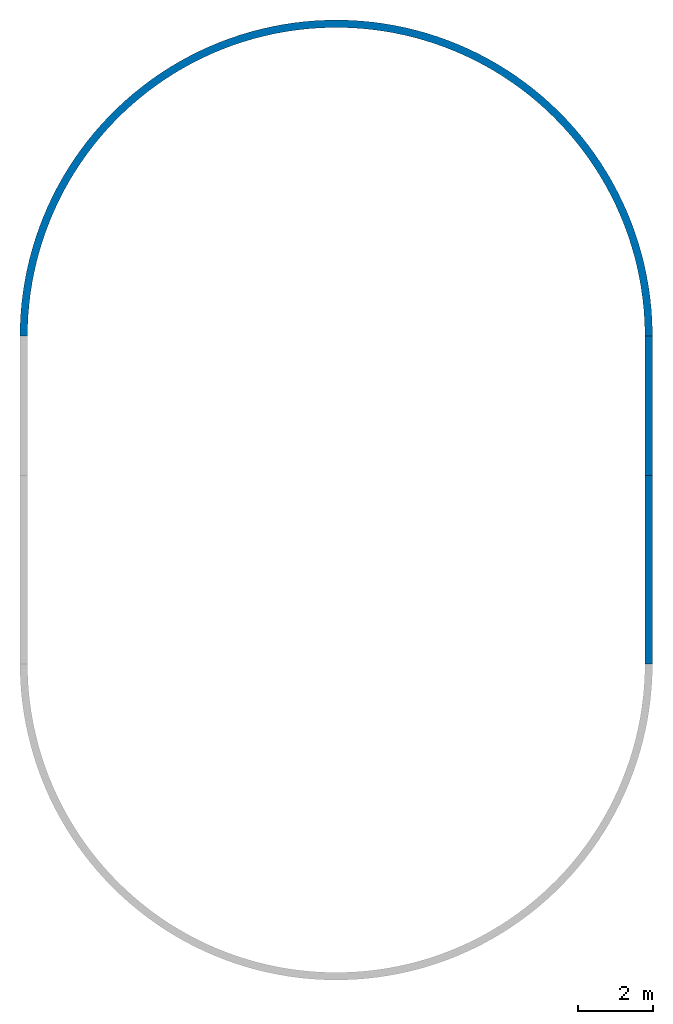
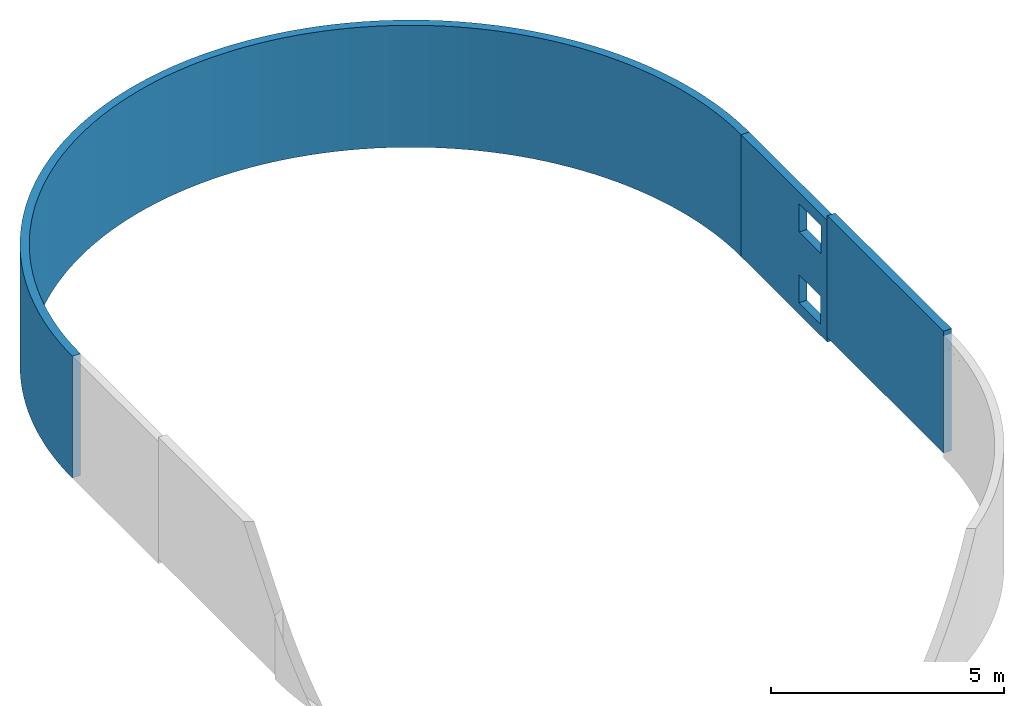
# One storey, part 2 of 2: 3 walls, 2 openings.
"""IFC4 building model written with IfcOpenShell, lengths in millimetres."""

from ifc_helpers import new_model, entity, si_unit, converted_unit, derived_unit, direction, frame, origin_with_axes, place, context, subcontext, project, spatial, polygons, material, constituent, constituent_set, type_object, element, save


model = new_model("IFC4")

# Units and contexts
model_context = context("Model", 3, precision=0.01, world=origin_with_axes(), true_north=direction((0.0, 1.0)))
body_context = subcontext(model_context, "Body", "Model", "MODEL_VIEW")
ifc_project = project(units=[si_unit("LENGTHUNIT", "METRE", prefix="MILLI"), si_unit("AREAUNIT", "SQUARE_METRE"), si_unit("VOLUMEUNIT", "CUBIC_METRE"), converted_unit("PLANEANGLEUNIT", "DEGREE", entity("IfcPlaneAngleMeasure", 0.0174532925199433), si_unit("PLANEANGLEUNIT", "RADIAN"), dimensions=[0, 0, 0, 0, 0, 0, 0]), converted_unit("TIMEUNIT", "Year", entity("IfcTimeMeasure", 31557600.0), si_unit("TIMEUNIT", "SECOND"), dimensions=[0, 0, 1, 0, 0, 0, 0]), si_unit("MASSUNIT", "GRAM", prefix="KILO"), si_unit("THERMODYNAMICTEMPERATUREUNIT", "DEGREE_CELSIUS"), si_unit("LUMINOUSINTENSITYUNIT", "LUMEN"), si_unit("ENERGYUNIT", "JOULE", prefix="MEGA"), derived_unit("THERMALCONDUCTANCEUNIT", [(si_unit("POWERUNIT", "WATT"), 1), (si_unit("LENGTHUNIT", "METRE"), -1), (si_unit("THERMODYNAMICTEMPERATUREUNIT", "KELVIN"), -1)]), derived_unit("SPECIFICHEATCAPACITYUNIT", [(si_unit("ENERGYUNIT", "JOULE"), 1), (si_unit("MASSUNIT", "GRAM", prefix="KILO"), -1), (si_unit("THERMODYNAMICTEMPERATUREUNIT", "KELVIN"), -1)]), derived_unit("MASSDENSITYUNIT", [(si_unit("MASSUNIT", "GRAM", prefix="KILO"), 1), (si_unit("VOLUMEUNIT", "CUBIC_METRE"), -1)])], contexts=[model_context])

# Site, building, storey
site_placement = place(None, origin_with_axes())
site = spatial("IfcSite", under=ifc_project, at=site_placement, Name="Exteriér", CompositionType="ELEMENT")
building_placement = place(site_placement, origin_with_axes())
building = spatial("IfcBuilding", under=site, at=building_placement, Name="Univerzitní lezecké centrum", CompositionType="ELEMENT")
storey_placement = place(building_placement, frame((0.0, 0.0, 3200.0), z_axis=(0.0, 0.0, 1.0), x_axis=(1.0, 0.0, 0.0)))
storey = spatial("IfcBuildingStorey", under=building, at=storey_placement, Name="2.NP", CompositionType="ELEMENT", Elevation=3200.0)

# Wall, openings
ifc_material = material(Name="Tepelná izolace - minerální vata - obvodová izolace")
ifc_constituent_1 = constituent(ifc_material, Name="Tepelná izolace - minerální vata - obvodová izolace")
ifc_constituent_set_1 = constituent_set(constituents=[ifc_constituent_1], Name="Obvodová tepelná izolace")
wall_type = type_object("IfcWallType", Name="Obvodová tepelná izolace 200", PredefinedType="NOTDEFINED")
wall_1_placement = place(storey_placement, frame((10649.85164885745, 8399.999999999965, -120.000000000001), z_axis=(0.0, 0.0, 1.0), x_axis=(0.0, -1.0, 0.0)))
wall_1 = element("IfcWall", 1, at=wall_1_placement, inside=storey, type_object=wall_type, material=ifc_constituent_set_1, Name="St01", PredefinedType="NOTDEFINED", context=body_context, shape_type="Tessellation", body=[
    polygons([(0.0, 0.0, 0.0), (3700.000000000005, 0.0, 0.0), (3700.000000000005, 0.0, 3200.0), (0.0, 0.0, 3200.0), (3417.665309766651, 0.0, 292.6445664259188), (2477.665309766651, 0.0, 292.6445664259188), (2477.665309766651, 0.0, 1032.644566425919), (3417.665309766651, 0.0, 1032.644566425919), (3433.613625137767, 0.0, 2158.246547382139), (2493.613625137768, 0.0, 2158.246547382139), (2493.613625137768, 0.0, 2898.246547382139), (3433.613625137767, 0.0, 2898.246547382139), (0.0, 199.9999999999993, 0.0), (3700.000000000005, 199.9999999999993, 0.0), (3700.000000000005, 199.9999999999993, 3200.0), (0.0, 200.0000000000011, 3200.0), (3417.665309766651, 199.9999999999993, 292.6445664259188), (2477.665309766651, 199.9999999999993, 292.6445664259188), (2477.665309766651, 199.9999999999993, 1032.644566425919), (3417.665309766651, 199.9999999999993, 1032.644566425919), (3433.613625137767, 199.9999999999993, 2158.246547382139), (2493.613625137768, 199.9999999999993, 2158.246547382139), (2493.613625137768, 199.9999999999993, 2898.246547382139), (3433.613625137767, 199.9999999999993, 2898.246547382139)], [[[1, 2, 3, 4], [5, 6, 7, 8], [9, 10, 11, 12]], [[13, 14, 2, 1]], [[15, 3, 2, 14]], [[4, 3, 15, 16]], [[1, 4, 16, 13]], [[17, 18, 6, 5]], [[18, 19, 7, 6]], [[19, 20, 8, 7]], [[20, 17, 5, 8]], [[21, 22, 10, 9]], [[22, 23, 11, 10]], [[23, 24, 12, 11]], [[24, 21, 9, 12]], [[16, 15, 14, 13], [17, 20, 19, 18], [21, 24, 23, 22]]], closed=True),
])
opening_1_placement = place(wall_1_placement, frame((8399.999999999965, -10649.85164885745, -3080.0), z_axis=(0.0, 0.0, 1.0), x_axis=(0.0, 1.0, 0.0)))
element("IfcOpeningElement", 2, at=opening_1_placement, cuts=wall_1, Name="Pr01", PredefinedType="NOTDEFINED", context=body_context, identifier="Reference", shape_type="Tessellation", body=[
    polygons([(10449.85164885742, 5922.334690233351, 3372.644566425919), (10449.85164885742, 5922.334690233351, 4112.644566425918), (11049.85164885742, 5922.334690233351, 4112.644566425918), (11049.85164885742, 5922.334690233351, 3372.644566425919), (10449.85164885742, 4982.334690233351, 3372.644566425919), (10449.85164885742, 4982.334690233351, 4112.644566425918), (11049.85164885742, 4982.334690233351, 4112.644566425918), (11049.85164885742, 4982.334690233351, 3372.644566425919)], [[[1, 2, 3, 4]], [[1, 5, 6, 2]], [[2, 6, 7, 3]], [[4, 3, 7, 8]], [[5, 1, 4, 8]], [[6, 5, 8, 7]]], closed=True),
])
opening_2_placement = place(wall_1_placement, frame((8399.999999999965, -10649.85164885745, -3080.0), z_axis=(0.0, 0.0, 1.0), x_axis=(0.0, 1.0, 0.0)))
element("IfcOpeningElement", 3, at=opening_2_placement, cuts=wall_1, Name="Pr01", PredefinedType="NOTDEFINED", context=body_context, identifier="Reference", shape_type="Tessellation", body=[
    polygons([(10449.85164885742, 5906.386374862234, 5238.246547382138), (10449.85164885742, 5906.386374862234, 5978.246547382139), (11049.85164885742, 5906.386374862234, 5978.246547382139), (11049.85164885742, 5906.386374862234, 5238.246547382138), (10449.85164885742, 4966.386374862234, 5238.246547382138), (10449.85164885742, 4966.386374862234, 5978.246547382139), (11049.85164885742, 4966.386374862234, 5978.246547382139), (11049.85164885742, 4966.386374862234, 5238.246547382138)], [[[1, 2, 3, 4]], [[1, 5, 6, 2]], [[2, 6, 7, 3]], [[4, 3, 7, 8]], [[5, 1, 4, 8]], [[6, 5, 8, 7]]], closed=True),
])

# Walls
ifc_constituent_2 = constituent(ifc_material, Name="Tepelná izolace - minerální vata - obvodová izolace")
ifc_constituent_set_2 = constituent_set(constituents=[ifc_constituent_2], Name="Obvodová tepelná izolace")
wall_2_placement = place(storey_placement, frame((10649.85164885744, 4699.999999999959, 0.0), z_axis=(0.0, 0.0, 1.0), x_axis=(0.0, -1.0, 0.0)))
element("IfcWall", 4, at=wall_2_placement, inside=storey, type_object=wall_type, material=ifc_constituent_set_2, Name="St01", PredefinedType="NOTDEFINED", context=body_context, shape_type="Tessellation", body=[
    polygons([(-1.803002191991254e-10, 200.0000000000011, 3200.0), (0.0, 0.0, 3200.0), (5000.163436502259, 4.504840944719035e-09, 3200.0), (5000.163436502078, 200.0000000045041, 3200.0), (-1.803002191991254e-10, 199.9999999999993, 0.0), (0.0, 0.0, 0.0), (5000.163436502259, 4.504840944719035e-09, 0.0), (5000.163436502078, 200.0000000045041, 0.0)], [[[1, 2, 3, 4]], [[5, 6, 2, 1]], [[2, 6, 7, 3]], [[8, 4, 3, 7]], [[5, 1, 4, 8]], [[6, 5, 8, 7]]], closed=True),
])
ifc_constituent_3 = constituent(ifc_material, Name="Tepelná izolace - minerální vata - obvodová izolace")
ifc_constituent_set_3 = constituent_set(constituents=[ifc_constituent_3], Name="Obvodová tepelná izolace")
wall_3_placement = place(storey_placement, frame((10649.85164885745, 8399.999999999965, -120.000000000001), z_axis=(0.0, 0.0, 1.0), x_axis=(0.0, 1.0, 0.0)))
element("IfcWall", 5, at=wall_3_placement, inside=storey, type_object=wall_type, material=ifc_constituent_set_3, Name="St01", PredefinedType="NOTDEFINED", context=body_context, shape_type="Tessellation", body=[
    polygons([(147.4418335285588, -199.9999999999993, 0.0), (147.4418335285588, -199.9999999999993, 3200.0), (0.0, -199.9999999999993, 3200.0), (0.0, -199.9999999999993, 0.0), (442.1438529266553, -189.6512387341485, 0.0), (442.1438529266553, -189.6512387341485, 3200.0), (143.931313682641, 0.0, 3200.0), (0.0, 0.0, 3200.0), (0.0, 0.0, 0.0), (143.931313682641, 0.0, 0.0), (736.3011531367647, -168.9664658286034, 0.0), (736.3011531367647, -168.9664658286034, 3200.0), (431.6166183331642, 10.10236218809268, 3200.0), (431.6166183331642, 10.10236218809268, 0.0), (1029.551333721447, -137.9711648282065, 0.0), (1029.551333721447, -137.9711648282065, 3200.0), (718.7701733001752, 30.29464050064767, 3200.0), (718.7701733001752, 30.29464050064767, 0.0), (1321.533111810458, -96.70352180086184, 0.0), (1321.533111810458, -96.70352180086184, 3200.0), (1005.038206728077, 60.55195814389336, 3200.0), (1005.038206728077, 60.55195814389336, 0.0), (1611.886767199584, -45.21437829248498, 0.0), (1611.886767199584, -45.21437829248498, 3200.0), (1290.068037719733, 100.8370382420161, 3200.0), (1290.068037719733, 100.8370382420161, 0.0), (1900.254585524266, 16.4328313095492, 0.0), (1900.254585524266, 16.4328313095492, 3200.0), (1573.508510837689, 151.1002497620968, 3200.0), (1573.508510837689, 151.1002497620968, 0.0), (2186.281298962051, 88.16215792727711, 0.0), (2186.281298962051, 88.16215792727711, 3200.0), (1855.01042872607, 211.279668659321, 3200.0), (1855.01042872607, 211.279668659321, 0.0), (2469.614523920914, 169.8852313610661, 0.0), (2469.614523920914, 169.8852313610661, 3200.0), (2134.226982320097, 281.3011541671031, 3200.0), (2134.226982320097, 281.3011541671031, 0.0), (2749.905195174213, 261.5013691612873, 0.0), (2749.905195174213, 261.5013691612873, 3200.0), (2410.814178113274, 361.078440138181, 3200.0), (2410.814178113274, 361.078440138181, 0.0), (3026.807995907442, 362.8977006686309, 0.0), (3026.807995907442, 362.8977006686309, 3200.0), (2684.43126195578, 450.5132413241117, 3200.0), (2684.43126195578, 450.5132413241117, 0.0), (3299.981783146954, 473.9493060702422, 0.0), (3299.981783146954, 473.9493060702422, 3200.0), (2954.741138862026, 549.4953744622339, 3200.0), (2954.741138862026, 549.4953744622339, 0.0), (3569.090008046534, 594.519370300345, 0.0), (3569.090008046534, 594.519370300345, 3200.0), (3221.410788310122, 657.9028940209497, 3200.0), (3221.410788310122, 657.9028940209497, 0.0), (3833.801130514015, 724.4593515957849, 0.0), (3833.801130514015, 724.4593515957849, 3200.0), (3484.111674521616, 775.6022424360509, 3200.0), (3484.111674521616, 775.6022424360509, 0.0), (4093.78902766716, 863.6091644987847, 0.0), (4093.78902766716, 863.6091644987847, 3200.0), (3742.520151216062, 902.4484146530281, 3200.0), (3742.520151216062, 902.4484146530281, 0.0), (4348.733395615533, 1011.797377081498, 0.0), (4348.733395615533, 1011.797377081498, 3200.0), (3996.317860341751, 1038.285136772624, 3200.0), (3996.317860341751, 1038.285136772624, 0.0), (4598.320144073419, 1168.841422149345, 0.0), (4598.320144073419, 1168.841422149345, 3200.0), (4245.192124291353, 1182.945058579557, 3200.0), (4245.192124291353, 1182.945058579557, 0.0), (4842.241783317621, 1334.547822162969, 0.0), (4842.241783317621, 1334.547822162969, 3200.0), (4488.836331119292, 1336.249959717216, 3200.0), (4488.836331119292, 1336.249959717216, 0.0), (5080.197803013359, 1508.71242760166, 0.0), (5080.197803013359, 1508.71242760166, 3200.0), (4726.950312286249, 1498.010969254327, 3200.0), (4726.950312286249, 1498.010969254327, 0.0), (5311.895042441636, 1691.120668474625, 0.0), (5311.895042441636, 1691.120668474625, 3200.0), (4959.240712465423, 1668.028798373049, 3200.0), (4959.240712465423, 1668.028798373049, 0.0), (5537.048051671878, 1881.547818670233, 0.0), (5537.048051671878, 1881.547818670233, 3200.0), (5185.421350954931, 1846.093985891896, 3200.0), (5185.421350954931, 1846.093985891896, 0.0), (5755.379443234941, 2079.75927281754, 0.0), (5755.379443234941, 2079.75927281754, 3200.0), (5405.213574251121, 2031.987156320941, 3200.0), (5405.213574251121, 2031.987156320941, 0.0), (5966.620233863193, 2285.510835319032, 0.0), (5966.620233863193, 2285.510835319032, 3200.0), (5618.346599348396, 2225.479290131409, 3200.0), (5618.346599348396, 2225.479290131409, 0.0), (6170.51017587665, 2498.549021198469, 0.0), (6170.51017587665, 2498.549021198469, 3200.0), (5824.557847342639, 2426.332005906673, 3200.0), (5824.557847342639, 2426.332005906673, 0.0), (6366.798077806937, 2718.611368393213, 0.0), (6366.798077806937, 2718.611368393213, 3200.0), (6023.593266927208, 2634.297854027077, 3200.0), (6023.593266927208, 2634.297854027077, 0.0), (6555.242113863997, 2945.426761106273, 0.0), (6555.242113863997, 2945.426761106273, 3200.0), (6215.207647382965, 2849.120621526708, 3200.0), (6215.207647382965, 2849.120621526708, 0.0), (6735.610121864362, 3178.715763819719, 0.0), (6735.610121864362, 3178.715763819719, 3200.0), (6399.164920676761, 3070.5356477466, 3200.0), (6399.164920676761, 3070.5356477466, 0.0), (6907.67988925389, 3418.190965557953, 0.0), (6907.67988925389, 3418.190965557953, 3200.0), (6575.238452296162, 3298.270150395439, 3200.0), (6575.238452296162, 3298.270150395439, 0.0), (7071.239426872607, 3663.557333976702, 0.0), (7071.239426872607, 3663.557333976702, 3200.0), (6743.21132046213, 3532.043561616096, 3200.0), (6743.21132046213, 3532.043561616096, 0.0), (7226.087230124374, 3914.512578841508, 0.0), (7226.087230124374, 3914.512578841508, 3200.0), (6902.876583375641, 3771.567873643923, 3200.0), (6902.876583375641, 3771.567873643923, 0.0), (7372.03252722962, 4170.747524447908, 0.0), (7372.03252722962, 4170.747524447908, 3200.0), (7054.037534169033, 4016.547993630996, 3200.0), (7054.037534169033, 4016.547993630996, 0.0), (7508.895514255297, 4431.946490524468, 0.0), (7508.895514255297, 4431.946490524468, 3200.0), (7196.507943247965, 4266.68210719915, 3200.0), (7196.507943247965, 4266.68210719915, 0.0), (7636.507576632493, 4697.787681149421, 0.0), (7636.507576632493, 4697.787681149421, 3200.0), (7330.112287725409, 4521.662050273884, 3200.0), (7330.112287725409, 4521.662050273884, 0.0), (7754.711496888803, 4967.943581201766, 0.0), (7754.711496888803, 4967.943581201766, 3200.0), (7454.685967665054, 4781.1736887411, 3200.0), (7454.685967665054, 4781.1736887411, 0.0), (7863.361648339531, 5242.081359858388, 0.0), (7863.361648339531, 5242.081359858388, 3200.0), (7570.075508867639, 5044.897305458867, 3200.0), (7570.075508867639, 5044.897305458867, 0.0), (7962.324174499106, 5519.863280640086, 0.0), (7962.324174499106, 5519.863280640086, 3200.0), (7676.138751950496, 5312.507994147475, 3200.0), (7676.138751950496, 5312.507994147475, 0.0), (8051.477153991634, 5800.947117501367, 0.0), (8051.477153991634, 5800.947117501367, 3200.0), (7772.745027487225, 5583.676059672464, 3200.0), (7772.745027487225, 5583.676059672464, 0.0), (8130.710750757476, 6084.986576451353, 0.0), (8130.710750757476, 6084.986576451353, 3200.0), (7859.775316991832, 5858.067424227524, 3200.0), (7859.775316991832, 5858.067424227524, 0.0), (8199.927349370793, 6371.631722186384, 0.0), (8199.927349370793, 6371.631722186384, 3200.0), (7937.122399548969, 6135.344038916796, 3200.0), (7937.122399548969, 6135.344038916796, 0.0), (8259.041675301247, 6660.529409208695, 0.0), (8259.041675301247, 6660.529409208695, 3200.0), (8004.69098390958, 6415.164300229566, 3200.0), (8004.69098390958, 6415.164300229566, 0.0), (8307.980899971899, 6951.323716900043, 0.0), (8307.980899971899, 6951.323716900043, 3200.0), (8062.397825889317, 6697.183470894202, 3200.0), (8062.397825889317, 6697.183470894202, 0.0), (8346.684730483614, 7243.656388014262, 0.0), (8346.684730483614, 7243.656388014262, 3200.0), (8110.171830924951, 6981.0541045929, 3200.0), (8110.171830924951, 6981.0541045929, 0.0), (8375.10548389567, 7537.167270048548, 0.0), (8375.10548389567, 7537.167270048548, 3200.0), (8147.95414166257, 7266.426474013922, 3200.0), (8147.95414166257, 7266.426474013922, 0.0), (8393.20814597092, 7831.494758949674, 0.0), (8393.20814597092, 7831.494758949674, 3200.0), (8175.69821046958, 7552.949001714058, 3200.0), (8175.69821046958, 7552.949001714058, 0.0), (8400.970414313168, 8126.276244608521, 0.0), (8400.970414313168, 8126.276244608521, 3200.0), (8193.369856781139, 7840.268693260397, 3200.0), (8193.369856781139, 7840.268693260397, 0.0), (8398.382725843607, 8421.148557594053, 0.0), (8398.382725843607, 8421.148557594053, 3200.0), (8200.947309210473, 8128.031572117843, 3200.0), (8200.947309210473, 8128.031572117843, 0.0), (8385.44826858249, 8715.748416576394, 0.0), (8385.44826858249, 8715.748416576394, 3200.0), (8198.421232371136, 8415.883115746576, 3200.0), (8198.421232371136, 8415.883115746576, 0.0), (8362.182977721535, 9009.712875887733, 0.0), (8362.182977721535, 9009.712875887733, 3200.0), (8185.794738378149, 8703.468692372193, 3200.0), (8185.794738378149, 8703.468692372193, 0.0), (8328.615515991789, 9302.679772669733, 0.0), (8328.615515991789, 9302.679772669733, 3200.0), (8163.083383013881, 8990.433997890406, 3200.0), (8163.083383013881, 8990.433997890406, 0.0), (8284.787238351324, 9594.288173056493, 0.0), (8284.787238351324, 9594.288173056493, 3200.0), (8130.315146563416, 9276.425492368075, 3200.0), (8130.315146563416, 9276.425492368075, 0.0), (8230.752141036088, 9884.178816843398, 0.0), (8230.752141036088, 9884.178816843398, 3200.0), (8087.53039934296, 9561.090835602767, 3200.0), (8087.53039934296, 9561.090835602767, 0.0), (8166.576795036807, 10171.99456009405, 0.0), (8166.576795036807, 10171.99456009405, 3200.0), (8034.781851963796, 9844.07932120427, 3200.0), (8034.781851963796, 9844.07932120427, 0.0), (8092.340264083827, 10457.38081513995, 0.0), (8092.340264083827, 10457.38081513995, 3200.0), (7972.13449039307, 10125.04230866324, 3200.0), (7972.13449039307, 10125.04230866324, 0.0), (8008.134007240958, 10739.98598743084, 0.0), (8008.134007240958, 10739.98598743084, 3200.0), (7899.665495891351, 10403.63365287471, 3200.0), (7899.665495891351, 10403.63365287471, 0.0), (7914.061766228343, 11019.46190869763, 0.0), (7914.061766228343, 11019.46190869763, 3200.0), (7817.464149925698, 10679.51013058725, 3200.0), (7817.464149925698, 10679.51013058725, 0.0), (7810.23943761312, 11295.46426589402, 0.0), (7810.23943761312, 11295.46426589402, 3200.0), (7725.631724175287, 10952.33186325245, 3200.0), (7725.631724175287, 10952.33186325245, 0.0), (7696.794930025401, 11567.65302538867, 0.0), (7696.794930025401, 11567.65302538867, 3200.0), (7624.281355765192, 11221.76273575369, 3200.0), (7624.281355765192, 11221.76273575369, 0.0), (7573.868006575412, 11835.69285188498, 0.0), (7573.868006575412, 11835.69285188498, 3200.0), (7513.53790788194, 11487.47081049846, 3200.0), (7513.53790788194, 11487.47081049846, 0.0), (7441.610112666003, 12099.25352155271, 0.0), (7441.610112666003, 12099.25352155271, 3200.0), (7393.537815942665, 11749.12873636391, 3200.0), (7393.537815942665, 11749.12873636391, 0.0), (7300.184189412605, 12358.01032886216, 0.0), (7300.184189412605, 12358.01032886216, 3200.0), (7264.428919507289, 12006.41415199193, 3200.0), (7264.428919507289, 12006.41415199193, 0.0), (7149.76447290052, 12611.64448661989, 0.0), (7149.76447290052, 12611.64448661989, 3200.0), (7126.370280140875, 12259.01008293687, 3200.0), (7126.370280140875, 12259.01008293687, 0.0), (6990.536279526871, 12859.84351871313, 0.0), (6990.536279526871, 12859.84351871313, 3200.0), (6979.531985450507, 12506.60533217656, 3200.0), (6979.531985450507, 12506.60533217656, 0.0), (6822.695777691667, 13102.30164507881, 0.0), (6822.695777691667, 13102.30164507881, 3200.0), (6824.094939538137, 12748.89486350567, 3200.0), (6824.094939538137, 12748.89486350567, 0.0), (6646.449746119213, 13338.7201584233, 0.0), (6646.449746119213, 13338.7201584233, 3200.0), (6660.250640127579, 12985.58017733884, 3200.0), (6660.250640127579, 12985.58017733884, 0.0), (6462.015319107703, 13568.80779222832, 0.0), (6462.015319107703, 13568.80779222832, 3200.0), (6488.200942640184, 13216.36967846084, 3200.0), (6488.200942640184, 13216.36967846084, 0.0), (6269.619719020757, 13792.28107958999, 0.0), (6269.619719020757, 13792.28107958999, 3200.0), (6308.157811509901, 13440.9790352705, 3200.0), (6308.157811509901, 13440.9790352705, 0.0), (6069.499976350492, 14008.86470244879, 0.0), (6069.499976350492, 14008.86470244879, 3200.0), (6120.343059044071, 13659.13153007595, 3200.0), (6120.343059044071, 13659.13153007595, 0.0), (5861.902637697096, 14218.29183078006, 0.0), (5861.902637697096, 14218.29183078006, 3200.0), (5924.98807215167, 13870.55840000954, 3200.0), (5924.98807215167, 13870.55840000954, 0.0), (5647.083462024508, 14420.3044513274, 0.0), (5647.083462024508, 14420.3044513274, 3200.0), (5722.333527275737, 14074.99916814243, 3200.0), (5722.333527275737, 14074.99916814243, 0.0), (5425.307105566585, 14614.65368547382, 0.0), (5425.307105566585, 14614.65368547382, 3200.0), (5512.629093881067, 14272.20196439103, 3200.0), (5512.629093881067, 14272.20196439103, 0.0), (5196.84679577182, 14801.10009585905, 0.0), (5196.84679577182, 14801.10009585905, 3200.0), (5296.133126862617, 14461.92383581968, 3200.0), (5296.133126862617, 14461.92383581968, 0.0), (4961.983994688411, 14979.41398136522, 0.0), (4961.983994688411, 14979.41398136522, 3200.0), (5073.112348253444, 14643.93104595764, 3200.0), (5073.112348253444, 14643.93104595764, 0.0), (4721.008052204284, 15149.37566010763, 0.0), (4721.008052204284, 15149.37566010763, 3200.0), (4843.841518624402, 14817.99936276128, 3200.0), (4843.841518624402, 14817.99936276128, 0.0), (4474.215849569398, 15310.77574008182, 0.0), (4474.215849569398, 15310.77574008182, 3200.0), (4608.603098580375, 14983.91433486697, 3200.0), (4608.603098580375, 14983.91433486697, 0.0), (4221.911433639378, 15463.41537713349, 0.0), (4221.911433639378, 15463.41537713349, 3200.0), (4367.686900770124, 15141.47155579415, 3200.0), (4367.686900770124, 15141.47155579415, 0.0), (3964.405642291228, 15607.10651993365, 0.0), (3964.405642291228, 15607.10651993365, 3200.0), (4121.389732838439, 15290.47691577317, 3200.0), (4121.389732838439, 15290.47691577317, 0.0), (3702.015721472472, 15741.67214165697, 0.0), (3702.015721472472, 15741.67214165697, 3200.0), (3870.015031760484, 15430.74684088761, 3200.0), (3870.015031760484, 15430.74684088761, 0.0), (3435.064934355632, 15866.94645807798, 0.0), (3435.064934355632, 15866.94645807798, 3200.0), (3613.872490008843, 15562.10851923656, 3200.0), (3613.872490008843, 15562.10851923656, 0.0), (3163.882163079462, 15982.77513181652, 0.0), (3163.882163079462, 15982.77513181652, 3200.0), (3353.277674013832, 15684.40011383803, 3200.0), (3353.277674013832, 15684.40011383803, 0.0), (2888.8015035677, 16089.01546248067, 0.0), (2888.8015035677, 16089.01546248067, 3200.0), (3088.551635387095, 15797.47096201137, 3200.0), (3088.551635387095, 15797.47096201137, 0.0), (2610.161853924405, 16185.53656247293, 0.0), (2610.161853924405, 16185.53656247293, 3200.0), (2820.020515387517, 15901.18176099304, 3200.0), (2820.020515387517, 15901.18176099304, 0.0), (2328.306496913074, 16272.2195182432, 0.0), (2328.306496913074, 16272.2195182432, 3200.0), (2548.015143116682, 15995.40473955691, 3200.0), (2548.015143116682, 15995.40473955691, 0.0), (2043.582677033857, 16348.95753678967, 0.0), (2043.582677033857, 16348.95753678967, 3200.0), (2272.870627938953, 16080.02381542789, 3200.0), (2272.870627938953, 16080.02381542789, 0.0), (1756.341172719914, 16415.65607722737, 0.0), (1756.341172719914, 16415.65607722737, 3200.0), (1994.925946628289, 16154.93473829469, 3200.0), (1994.925946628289, 16154.93473829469, 0.0), (1466.935864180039, 16472.23296726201, 0.0), (1466.935864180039, 16472.23296726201, 3200.0), (1714.523525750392, 16220.04521824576, 3200.0), (1714.523525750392, 16220.04521824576, 0.0), (1175.723297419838, 16518.61850442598, 0.0), (1175.723297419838, 16518.61850442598, 3200.0), (1432.008819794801, 16275.27503947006, 3200.0), (1432.008819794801, 16275.27503947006, 0.0), (883.0622449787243, 16554.75554195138, 0.0), (883.0622449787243, 16554.75554195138, 3200.0), (1147.729885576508, 16320.5561590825, 3200.0), (1147.729885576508, 16320.5561590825, 0.0), (589.3132639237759, 16580.59955917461, 0.0), (589.3132639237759, 16580.59955917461, 3200.0), (862.0369534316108, 16355.83279095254, 3200.0), (862.0369534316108, 16355.83279095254, 0.0), (294.8382516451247, 16596.11871638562, 0.0), (294.8382516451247, 16596.11871638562, 3200.0), (575.2819957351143, 16381.06147443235, 3200.0), (575.2819957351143, 16381.06147443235, 0.0), (0.0, 16599.99999999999, 0.0), (0.0, 16599.99999999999, 3200.0), (287.8182932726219, 16396.21112790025, 3200.0), (287.8182932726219, 16396.21112790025, 0.0), (0.0, 16399.99999999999, 0.0), (0.0, 16399.99999999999, 3200.0)], [[[1, 2, 3, 4]], [[5, 6, 2, 1]], [[2, 7, 8, 3]], [[4, 3, 8, 9]], [[10, 1, 4, 9]], [[11, 12, 6, 5]], [[6, 13, 7, 2]], [[14, 5, 1, 10]], [[7, 10, 9, 8]], [[15, 16, 12, 11]], [[12, 17, 13, 6]], [[18, 11, 5, 14]], [[13, 14, 10, 7]], [[19, 20, 16, 15]], [[16, 21, 17, 12]], [[22, 15, 11, 18]], [[17, 18, 14, 13]], [[23, 24, 20, 19]], [[20, 25, 21, 16]], [[26, 19, 15, 22]], [[21, 22, 18, 17]], [[27, 28, 24, 23]], [[24, 29, 25, 20]], [[30, 23, 19, 26]], [[25, 26, 22, 21]], [[31, 32, 28, 27]], [[28, 33, 29, 24]], [[34, 27, 23, 30]], [[29, 30, 26, 25]], [[35, 36, 32, 31]], [[32, 37, 33, 28]], [[38, 31, 27, 34]], [[33, 34, 30, 29]], [[39, 40, 36, 35]], [[36, 41, 37, 32]], [[42, 35, 31, 38]], [[37, 38, 34, 33]], [[43, 44, 40, 39]], [[40, 45, 41, 36]], [[46, 39, 35, 42]], [[41, 42, 38, 37]], [[47, 48, 44, 43]], [[44, 49, 45, 40]], [[50, 43, 39, 46]], [[45, 46, 42, 41]], [[51, 52, 48, 47]], [[48, 53, 49, 44]], [[54, 47, 43, 50]], [[49, 50, 46, 45]], [[55, 56, 52, 51]], [[52, 57, 53, 48]], [[58, 51, 47, 54]], [[53, 54, 50, 49]], [[59, 60, 56, 55]], [[56, 61, 57, 52]], [[62, 55, 51, 58]], [[57, 58, 54, 53]], [[63, 64, 60, 59]], [[60, 65, 61, 56]], [[66, 59, 55, 62]], [[61, 62, 58, 57]], [[67, 68, 64, 63]], [[64, 69, 65, 60]], [[70, 63, 59, 66]], [[65, 66, 62, 61]], [[71, 72, 68, 67]], [[68, 73, 69, 64]], [[74, 67, 63, 70]], [[69, 70, 66, 65]], [[75, 76, 72, 71]], [[72, 77, 73, 68]], [[78, 71, 67, 74]], [[73, 74, 70, 69]], [[79, 80, 76, 75]], [[76, 81, 77, 72]], [[82, 75, 71, 78]], [[77, 78, 74, 73]], [[83, 84, 80, 79]], [[80, 85, 81, 76]], [[86, 79, 75, 82]], [[81, 82, 78, 77]], [[87, 88, 84, 83]], [[84, 89, 85, 80]], [[90, 83, 79, 86]], [[85, 86, 82, 81]], [[91, 92, 88, 87]], [[88, 93, 89, 84]], [[94, 87, 83, 90]], [[89, 90, 86, 85]], [[95, 96, 92, 91]], [[92, 97, 93, 88]], [[98, 91, 87, 94]], [[93, 94, 90, 89]], [[99, 100, 96, 95]], [[96, 101, 97, 92]], [[102, 95, 91, 98]], [[97, 98, 94, 93]], [[103, 104, 100, 99]], [[100, 105, 101, 96]], [[106, 99, 95, 102]], [[101, 102, 98, 97]], [[107, 108, 104, 103]], [[104, 109, 105, 100]], [[110, 103, 99, 106]], [[105, 106, 102, 101]], [[111, 112, 108, 107]], [[108, 113, 109, 104]], [[114, 107, 103, 110]], [[109, 110, 106, 105]], [[115, 116, 112, 111]], [[112, 117, 113, 108]], [[118, 111, 107, 114]], [[113, 114, 110, 109]], [[119, 120, 116, 115]], [[116, 121, 117, 112]], [[122, 115, 111, 118]], [[117, 118, 114, 113]], [[123, 124, 120, 119]], [[120, 125, 121, 116]], [[126, 119, 115, 122]], [[121, 122, 118, 117]], [[127, 128, 124, 123]], [[124, 129, 125, 120]], [[130, 123, 119, 126]], [[125, 126, 122, 121]], [[131, 132, 128, 127]], [[128, 133, 129, 124]], [[134, 127, 123, 130]], [[129, 130, 126, 125]], [[135, 136, 132, 131]], [[132, 137, 133, 128]], [[138, 131, 127, 134]], [[133, 134, 130, 129]], [[139, 140, 136, 135]], [[136, 141, 137, 132]], [[142, 135, 131, 138]], [[137, 138, 134, 133]], [[143, 144, 140, 139]], [[140, 145, 141, 136]], [[146, 139, 135, 142]], [[141, 142, 138, 137]], [[147, 148, 144, 143]], [[144, 149, 145, 140]], [[150, 143, 139, 146]], [[145, 146, 142, 141]], [[151, 152, 148, 147]], [[148, 153, 149, 144]], [[154, 147, 143, 150]], [[149, 150, 146, 145]], [[155, 156, 152, 151]], [[152, 157, 153, 148]], [[158, 151, 147, 154]], [[153, 154, 150, 149]], [[159, 160, 156, 155]], [[156, 161, 157, 152]], [[162, 155, 151, 158]], [[157, 158, 154, 153]], [[163, 164, 160, 159]], [[160, 165, 161, 156]], [[166, 159, 155, 162]], [[161, 162, 158, 157]], [[167, 168, 164, 163]], [[164, 169, 165, 160]], [[170, 163, 159, 166]], [[165, 166, 162, 161]], [[171, 172, 168, 167]], [[168, 173, 169, 164]], [[174, 167, 163, 170]], [[169, 170, 166, 165]], [[175, 176, 172, 171]], [[172, 177, 173, 168]], [[178, 171, 167, 174]], [[173, 174, 170, 169]], [[179, 180, 176, 175]], [[176, 181, 177, 172]], [[182, 175, 171, 178]], [[177, 178, 174, 173]], [[183, 184, 180, 179]], [[180, 185, 181, 176]], [[186, 179, 175, 182]], [[181, 182, 178, 177]], [[187, 188, 184, 183]], [[184, 189, 185, 180]], [[190, 183, 179, 186]], [[185, 186, 182, 181]], [[191, 192, 188, 187]], [[188, 193, 189, 184]], [[194, 187, 183, 190]], [[189, 190, 186, 185]], [[195, 196, 192, 191]], [[192, 197, 193, 188]], [[198, 191, 187, 194]], [[193, 194, 190, 189]], [[199, 200, 196, 195]], [[196, 201, 197, 192]], [[202, 195, 191, 198]], [[197, 198, 194, 193]], [[203, 204, 200, 199]], [[200, 205, 201, 196]], [[206, 199, 195, 202]], [[201, 202, 198, 197]], [[207, 208, 204, 203]], [[204, 209, 205, 200]], [[210, 203, 199, 206]], [[205, 206, 202, 201]], [[211, 212, 208, 207]], [[208, 213, 209, 204]], [[214, 207, 203, 210]], [[209, 210, 206, 205]], [[215, 216, 212, 211]], [[212, 217, 213, 208]], [[218, 211, 207, 214]], [[213, 214, 210, 209]], [[219, 220, 216, 215]], [[216, 221, 217, 212]], [[222, 215, 211, 218]], [[217, 218, 214, 213]], [[223, 224, 220, 219]], [[220, 225, 221, 216]], [[226, 219, 215, 222]], [[221, 222, 218, 217]], [[227, 228, 224, 223]], [[224, 229, 225, 220]], [[230, 223, 219, 226]], [[225, 226, 222, 221]], [[231, 232, 228, 227]], [[228, 233, 229, 224]], [[234, 227, 223, 230]], [[229, 230, 226, 225]], [[235, 236, 232, 231]], [[232, 237, 233, 228]], [[238, 231, 227, 234]], [[233, 234, 230, 229]], [[239, 240, 236, 235]], [[236, 241, 237, 232]], [[242, 235, 231, 238]], [[237, 238, 234, 233]], [[243, 244, 240, 239]], [[240, 245, 241, 236]], [[246, 239, 235, 242]], [[241, 242, 238, 237]], [[247, 248, 244, 243]], [[244, 249, 245, 240]], [[250, 243, 239, 246]], [[245, 246, 242, 241]], [[251, 252, 248, 247]], [[248, 253, 249, 244]], [[254, 247, 243, 250]], [[249, 250, 246, 245]], [[255, 256, 252, 251]], [[252, 257, 253, 248]], [[258, 251, 247, 254]], [[253, 254, 250, 249]], [[259, 260, 256, 255]], [[256, 261, 257, 252]], [[262, 255, 251, 258]], [[257, 258, 254, 253]], [[263, 264, 260, 259]], [[260, 265, 261, 256]], [[266, 259, 255, 262]], [[261, 262, 258, 257]], [[267, 268, 264, 263]], [[264, 269, 265, 260]], [[270, 263, 259, 266]], [[265, 266, 262, 261]], [[271, 272, 268, 267]], [[268, 273, 269, 264]], [[274, 267, 263, 270]], [[269, 270, 266, 265]], [[275, 276, 272, 271]], [[272, 277, 273, 268]], [[278, 271, 267, 274]], [[273, 274, 270, 269]], [[279, 280, 276, 275]], [[276, 281, 277, 272]], [[282, 275, 271, 278]], [[277, 278, 274, 273]], [[283, 284, 280, 279]], [[280, 285, 281, 276]], [[286, 279, 275, 282]], [[281, 282, 278, 277]], [[287, 288, 284, 283]], [[284, 289, 285, 280]], [[290, 283, 279, 286]], [[285, 286, 282, 281]], [[291, 292, 288, 287]], [[288, 293, 289, 284]], [[294, 287, 283, 290]], [[289, 290, 286, 285]], [[295, 296, 292, 291]], [[292, 297, 293, 288]], [[298, 291, 287, 294]], [[293, 294, 290, 289]], [[299, 300, 296, 295]], [[296, 301, 297, 292]], [[302, 295, 291, 298]], [[297, 298, 294, 293]], [[303, 304, 300, 299]], [[300, 305, 301, 296]], [[306, 299, 295, 302]], [[301, 302, 298, 297]], [[307, 308, 304, 303]], [[304, 309, 305, 300]], [[310, 303, 299, 306]], [[305, 306, 302, 301]], [[311, 312, 308, 307]], [[308, 313, 309, 304]], [[314, 307, 303, 310]], [[309, 310, 306, 305]], [[315, 316, 312, 311]], [[312, 317, 313, 308]], [[318, 311, 307, 314]], [[313, 314, 310, 309]], [[319, 320, 316, 315]], [[316, 321, 317, 312]], [[322, 315, 311, 318]], [[317, 318, 314, 313]], [[323, 324, 320, 319]], [[320, 325, 321, 316]], [[326, 319, 315, 322]], [[321, 322, 318, 317]], [[327, 328, 324, 323]], [[324, 329, 325, 320]], [[330, 323, 319, 326]], [[325, 326, 322, 321]], [[331, 332, 328, 327]], [[328, 333, 329, 324]], [[334, 327, 323, 330]], [[329, 330, 326, 325]], [[335, 336, 332, 331]], [[332, 337, 333, 328]], [[338, 331, 327, 334]], [[333, 334, 330, 329]], [[339, 340, 336, 335]], [[336, 341, 337, 332]], [[342, 335, 331, 338]], [[337, 338, 334, 333]], [[343, 344, 340, 339]], [[340, 345, 341, 336]], [[346, 339, 335, 342]], [[341, 342, 338, 337]], [[347, 348, 344, 343]], [[344, 349, 345, 340]], [[350, 343, 339, 346]], [[345, 346, 342, 341]], [[351, 352, 348, 347]], [[348, 353, 349, 344]], [[354, 347, 343, 350]], [[349, 350, 346, 345]], [[355, 356, 352, 351]], [[352, 357, 353, 348]], [[358, 351, 347, 354]], [[353, 354, 350, 349]], [[359, 360, 356, 355]], [[356, 361, 357, 352]], [[362, 355, 351, 358]], [[357, 358, 354, 353]], [[359, 363, 364, 360]], [[360, 364, 361, 356]], [[363, 359, 355, 362]], [[361, 362, 358, 357]], [[364, 363, 362, 361]]], closed=True),
])

save(model, "model.ifc")
